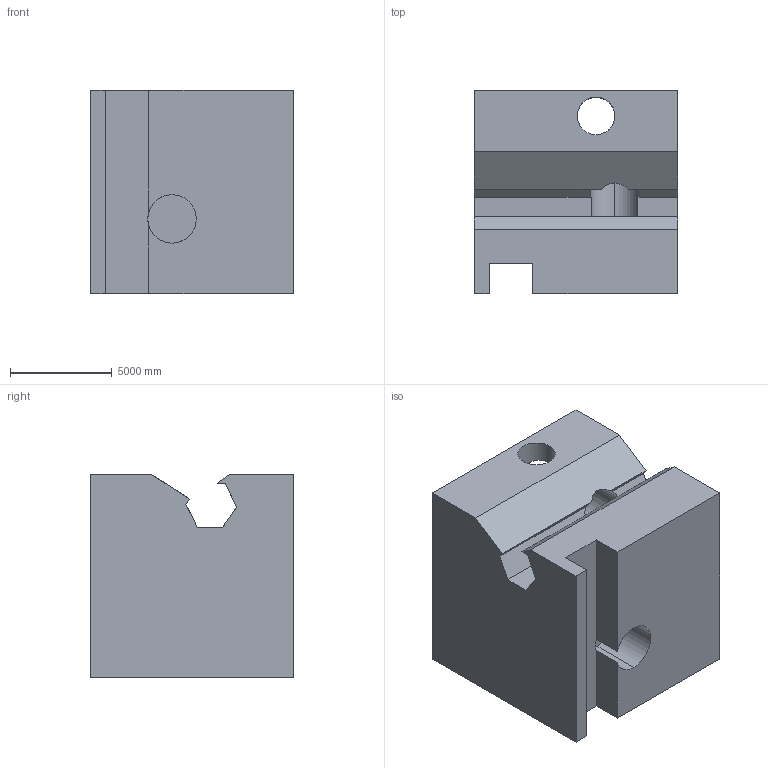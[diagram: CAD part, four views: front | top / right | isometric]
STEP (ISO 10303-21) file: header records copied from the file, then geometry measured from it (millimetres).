
FILE_DESCRIPTION (( 'STEP AP203' ), '1' );
FILE_NAME ('169.STEP', '2022-09-06T15:19:42', ( 'user' ), ( '' ), 'SwSTEP 2.0', 'SolidWorks 2021', '' );
FILE_SCHEMA (( 'CONFIG_CONTROL_DESIGN' ));
Length unit declared in the file: centimetre
Products named in the file (1): 169
Bounding box: 10000 x 10000 x 10000 mm (x, y, z)
Volume: 798157405572.6 mm3; surface area: 847941515.5 mm2
Topology: 1 solids, 1 shells, 39 faces, 123 edges, 82 vertices
Faces by surface type: plane 32, cylinder 7
Entity records: 1880 total; most frequent: CARTESIAN_POINT 719, ORIENTED_EDGE 246, DIRECTION 205, EDGE_CURVE 123, LINE 89, VECTOR 89, VERTEX_POINT 82, AXIS2_PLACEMENT_3D 58
